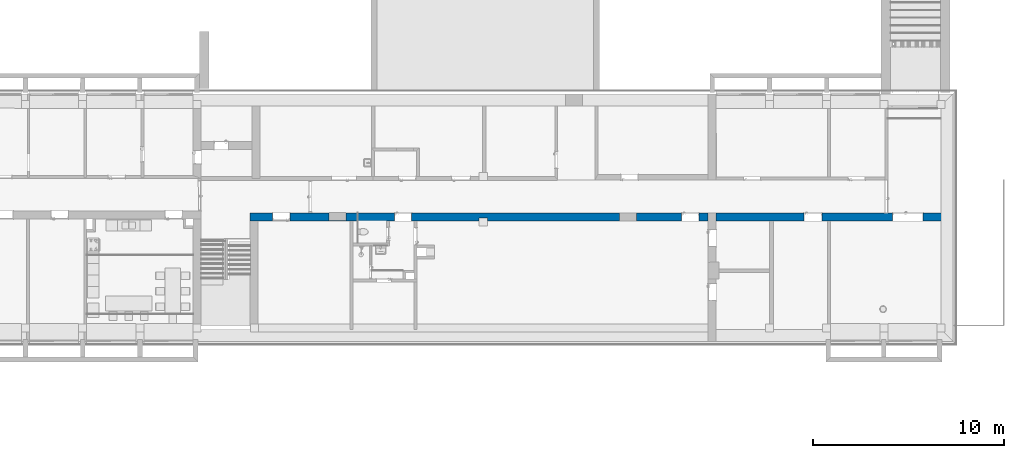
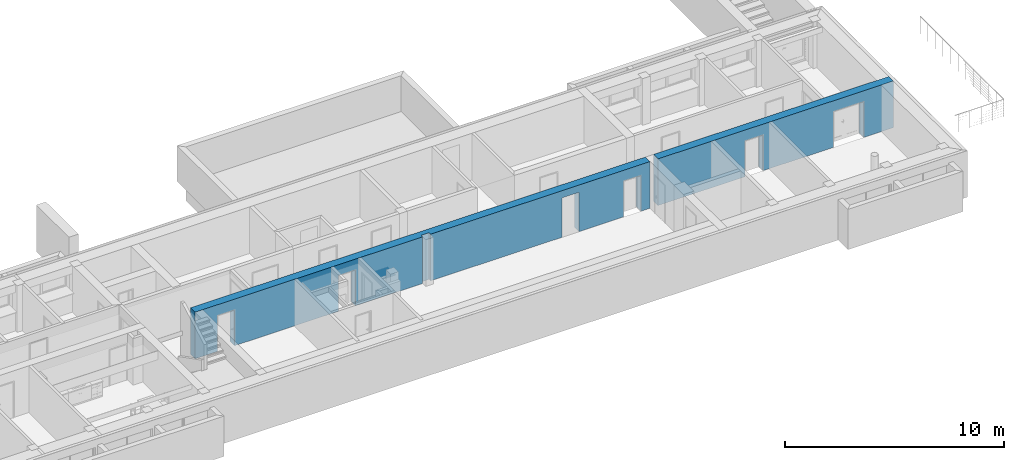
# One storey, part 35 of 127: 1 wall, 5 openings.
"""IFC2X3 building model written with IfcOpenShell, lengths in millimetres."""

from ifc_helpers import new_model, entity, si_unit, converted_unit, derived_unit, money_unit, direction, frame, origin_with_axes, origin_2d_with_axis, place, context, subcontext, project, spatial, polyline, rectangle, outline, extrude, boolean, faceted_brep, material, type_object, element, save


model = new_model("IFC2X3")

# Units and contexts
model_context = context("Model", 3, precision=1e-05, world=origin_with_axes(), true_north=direction((0.0, 1.0)))
body_context = subcontext(model_context, "Body", "Model", "MODEL_VIEW")
ifc_project = project(units=[si_unit("LENGTHUNIT", "METRE", prefix="MILLI"), si_unit("AREAUNIT", "SQUARE_METRE"), si_unit("VOLUMEUNIT", "CUBIC_METRE"), converted_unit("PLANEANGLEUNIT", "DEGREE", entity("IfcPlaneAngleMeasure", 0.0174532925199), si_unit("PLANEANGLEUNIT", "RADIAN"), dimensions=[0, 0, 0, 0, 0, 0, 0]), si_unit("SOLIDANGLEUNIT", "STERADIAN"), money_unit("EUR"), converted_unit("TIMEUNIT", "Year", entity("IfcTimeMeasure", 31556926.0), si_unit("TIMEUNIT", "SECOND"), dimensions=[0, 0, 1, 0, 0, 0, 0]), si_unit("MASSUNIT", "GRAM", prefix="KILO"), si_unit("THERMODYNAMICTEMPERATUREUNIT", "DEGREE_CELSIUS"), si_unit("LUMINOUSINTENSITYUNIT", "LUMEN"), si_unit("ENERGYUNIT", "JOULE", prefix="MEGA"), derived_unit("THERMALCONDUCTANCEUNIT", [(si_unit("POWERUNIT", "WATT"), 1), (si_unit("LENGTHUNIT", "METRE"), -1), (si_unit("THERMODYNAMICTEMPERATUREUNIT", "KELVIN"), -1)]), derived_unit("SPECIFICHEATCAPACITYUNIT", [(si_unit("ENERGYUNIT", "JOULE"), 1), (si_unit("MASSUNIT", "GRAM", prefix="KILO"), -1), (si_unit("THERMODYNAMICTEMPERATUREUNIT", "KELVIN"), -1)]), derived_unit("MASSDENSITYUNIT", [(si_unit("MASSUNIT", "GRAM", prefix="KILO"), 1), (si_unit("VOLUMEUNIT", "CUBIC_METRE"), -1)])], contexts=[model_context])

# Site, building, storey
site_placement = place(None, origin_with_axes())
site = spatial("IfcSite", under=ifc_project, at=site_placement, Name="Site", CompositionType="ELEMENT")
building_placement = place(site_placement, origin_with_axes())
building = spatial("IfcBuilding", under=site, at=building_placement, Name="Building", CompositionType="ELEMENT")
storey_placement = place(building_placement, origin_with_axes())
storey = spatial("IfcBuildingStorey", under=building, at=storey_placement, Name="1 KORRUS", CompositionType="ELEMENT", Elevation=0.0)

# Wall, openings
ifc_material = material(Name="Kivi -Ol.Olev Konstruktsioon")
wall_type = type_object("IfcWallType", Name="SW - 022", PredefinedType="NOTDEFINED")
wall_placement = place(storey_placement, frame((100568.175619, 41003.0649281, 0.0), z_axis=(0.0, 0.0, 1.0), x_axis=(-1.0, 0.0, 0.0)))
wall = element("IfcWall", 1, at=wall_placement, inside=storey, type_object=wall_type, material=ifc_material, Name="ol.olev ss 420", context=body_context, shape_type="CSG", body=[
    boolean("DIFFERENCE", boolean("DIFFERENCE", boolean("DIFFERENCE", boolean("DIFFERENCE", extrude(outline(polyline([(0.0, 0.0), (36847.6093323, 0.0), (36847.6093323, 420.0), (0.0, 420.0), (0.0, 0.0)])), origin_with_axes(), (0.0, 0.0, 1.0), 2600.0), faceted_brep([(32709.8748162, 0.0, 0.0), (32709.8748162, -1.81898940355e-09, 2200.0), (31809.8748162, -1.81898940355e-09, 2200.0), (31809.8748162, -9.09494701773e-10, 0.0), (32709.8748162, 415.567368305, 0.0), (32709.8748162, 415.567368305, 2200.0), (31809.8748162, 415.567368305, 2200.0), (31809.8748162, 415.567368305, 0.0)], [[[0, 1, 2, 3]], [[1, 0, 4, 5]], [[2, 1, 5, 6]], [[3, 2, 6, 7]], [[4, 0, 3, 7]], [[4, 7, 6, 5]]])), faceted_brep([(24830.8228346, 279.000002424, 2600.0), (24830.8228346, 420.0, 2600.0), (24410.8228346, 420.0, 2600.0), (24410.8228346, 279.000002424, 2600.0), (24830.8228346, 279.000002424, 0.0), (24830.8228346, 420.0, 0.0), (24410.8228346, 420.0, 0.0), (24410.8228346, 279.000002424, 0.0)], [[[0, 1, 2, 3]], [[1, 0, 4, 5]], [[6, 2, 1, 5]], [[3, 2, 6, 7]], [[0, 3, 7, 4]], [[7, 6, 5, 4]]])), faceted_brep([(17475.951796, -1.81898940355e-09, 0.0), (17475.951796, -1.81898940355e-09, 2200.0), (16575.951796, -1.81898940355e-09, 2200.0), (16575.951796, -1.81898940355e-09, 0.0), (17475.951796, 419.999999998, 0.0), (17475.951796, 419.999999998, 2200.0), (16575.951796, 419.999999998, 2200.0), (16575.951796, 419.999999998, 0.0)], [[[0, 1, 2, 3]], [[1, 0, 4, 5]], [[2, 1, 5, 6]], [[3, 2, 6, 7]], [[4, 0, 3, 7]], [[5, 4, 7, 6]]])), faceted_brep([(12413.4008273, 420.0, 0.0), (12413.4008273, 420.0, 2600.0), (12833.4011387, 420.0, 2600.0), (12833.4011387, 420.0, 0.0), (12413.9122559, 0.0, 2600.0), (12413.9122559, 0.0, 0.0), (12833.9125673, 0.0, 2600.0), (12833.9125673, 0.0, 0.0)], [[[0, 1, 2, 3]], [[4, 1, 0, 5]], [[1, 4, 6, 2]], [[3, 2, 6, 7]], [[5, 0, 3, 7]], [[4, 5, 7, 6]]])),
])
opening_1_placement = place(wall_placement, frame((28821.975966, 0.0, 0.0), z_axis=(0.0, 0.0, 1.0), x_axis=(1.0, 0.0, 0.0)))
element("IfcOpeningElement", 2, at=opening_1_placement, cuts=wall, Name="Siseuks * Door 22", context=body_context, shape_type="SweptSolid", body=[
    extrude(rectangle(XDim=900.0, YDim=2000.0, at=origin_2d_with_axis()), frame((0.0, 140.0, 1000.0), z_axis=(0.0, -1.0, 0.0), x_axis=(-1.0, 0.0, 0.0)), (0.0, 0.0, -1.0), 700.0),
    extrude(rectangle(XDim=900.0, YDim=2000.0, at=origin_2d_with_axis()), frame((0.0, 140.0, 1000.0), z_axis=(0.0, 1.0, 0.0), x_axis=(-1.0, 0.0, 0.0)), (0.0, 0.0, -1.0), 560.0),
    extrude(rectangle(XDim=974.0, YDim=2037.0, at=origin_2d_with_axis()), frame((0.0, 0.0, 1018.5), z_axis=(0.0, 1.0, 0.0), x_axis=(-1.0, 0.0, 0.0)), (0.0, 0.0, -1.0), 700.0),
    extrude(rectangle(XDim=974.0, YDim=2037.0, at=origin_2d_with_axis()), frame((0.0, 420.0, 1018.5), z_axis=(0.0, -1.0, 0.0), x_axis=(-1.0, 0.0, 0.0)), (0.0, 0.0, -1.0), 700.0),
])
opening_2_placement = place(wall_placement, frame((13772.07102, 0.0, 0.0), z_axis=(0.0, 0.0, 1.0), x_axis=(1.0, 0.0, 0.0)))
element("IfcOpeningElement", 3, at=opening_2_placement, cuts=wall, Name="Siseuks * Door 22", context=body_context, shape_type="SweptSolid", body=[
    extrude(rectangle(XDim=900.0, YDim=2000.0, at=origin_2d_with_axis()), frame((0.0, 140.0, 1000.0), z_axis=(0.0, -1.0, 0.0), x_axis=(-1.0, 0.0, 0.0)), (0.0, 0.0, -1.0), 700.0),
    extrude(rectangle(XDim=900.0, YDim=2000.0, at=origin_2d_with_axis()), frame((0.0, 140.0, 1000.0), z_axis=(0.0, 1.0, 0.0), x_axis=(-1.0, 0.0, 0.0)), (0.0, 0.0, -1.0), 560.0),
    extrude(rectangle(XDim=974.0, YDim=2037.0, at=origin_2d_with_axis()), frame((0.0, 0.0, 1018.5), z_axis=(0.0, 1.0, 0.0), x_axis=(-1.0, 0.0, 0.0)), (0.0, 0.0, -1.0), 700.0),
    extrude(rectangle(XDim=974.0, YDim=2037.0, at=origin_2d_with_axis()), frame((0.0, 420.0, 1018.5), z_axis=(0.0, -1.0, 0.0), x_axis=(-1.0, 0.0, 0.0)), (0.0, 0.0, -1.0), 700.0),
])
opening_3_placement = place(wall_placement, frame((7339.90911766, 0.0, 0.0), z_axis=(0.0, 0.0, 1.0), x_axis=(1.0, 0.0, 0.0)))
element("IfcOpeningElement", 4, at=opening_3_placement, cuts=wall, Name="Siseuks * Door 22", context=body_context, shape_type="SweptSolid", body=[
    extrude(rectangle(XDim=950.0, YDim=2000.0, at=origin_2d_with_axis()), frame((0.0, 140.0, 1000.0), z_axis=(0.0, -1.0, 0.0), x_axis=(-1.0, 0.0, 0.0)), (0.0, 0.0, -1.0), 700.0),
    extrude(rectangle(XDim=950.0, YDim=2000.0, at=origin_2d_with_axis()), frame((0.0, 140.0, 1000.0), z_axis=(0.0, 1.0, 0.0), x_axis=(-1.0, 0.0, 0.0)), (0.0, 0.0, -1.0), 560.0),
    extrude(rectangle(XDim=1024.0, YDim=2037.0, at=origin_2d_with_axis()), frame((0.0, 0.0, 1018.5), z_axis=(0.0, 1.0, 0.0), x_axis=(-1.0, 0.0, 0.0)), (0.0, 0.0, -1.0), 700.0),
    extrude(rectangle(XDim=1024.0, YDim=2037.0, at=origin_2d_with_axis()), frame((0.0, 420.0, 1018.5), z_axis=(0.0, -1.0, 0.0), x_axis=(-1.0, 0.0, 0.0)), (0.0, 0.0, -1.0), 700.0),
])
opening_4_placement = place(wall_placement, frame((2356.60276487, 0.0, 0.0), z_axis=(0.0, 0.0, 1.0), x_axis=(1.0, 0.0, 0.0)))
element("IfcOpeningElement", 5, at=opening_4_placement, cuts=wall, Name="Siseuks * Double Door 22", context=body_context, shape_type="SweptSolid", body=[
    extrude(rectangle(XDim=1600.0, YDim=2000.0, at=origin_2d_with_axis()), frame((0.0, 420.0, 1000.0), z_axis=(0.0, 1.0, 0.0), x_axis=(1.0, 0.0, 0.0)), (0.0, 0.0, -1.0), 1260.0),
    extrude(rectangle(XDim=1674.0, YDim=2037.0, at=origin_2d_with_axis()), frame((0.0, 420.0, 1018.5), z_axis=(0.0, 1.0, 0.0), x_axis=(1.0, 0.0, 0.0)), (0.0, 0.0, 1.0), 420.0),
    extrude(rectangle(XDim=1674.0, YDim=2037.0, at=origin_2d_with_axis()), frame((0.0, 0.0, 1018.5), z_axis=(0.0, -1.0, 0.0), x_axis=(1.0, 0.0, 0.0)), (0.0, 0.0, 1.0), 420.0),
])
opening_5_placement = place(wall_placement, frame((35210.9042965, 0.0, 0.0), z_axis=(0.0, 0.0, 1.0), x_axis=(1.0, 0.0, 0.0)))
element("IfcOpeningElement", 6, at=opening_5_placement, cuts=wall, Name="Siseuks * Door 22", context=body_context, shape_type="SweptSolid", body=[
    extrude(rectangle(XDim=900.0, YDim=2000.0, at=origin_2d_with_axis()), frame((0.0, 280.0, 1000.0), z_axis=(0.0, 1.0, 0.0), x_axis=(1.0, 0.0, 0.0)), (0.0, 0.0, -1.0), 700.0),
    extrude(rectangle(XDim=900.0, YDim=2000.0, at=origin_2d_with_axis()), frame((0.0, 280.0, 1000.0), z_axis=(0.0, -1.0, 0.0), x_axis=(1.0, 0.0, 0.0)), (0.0, 0.0, -1.0), 560.0),
    extrude(rectangle(XDim=974.0, YDim=2037.0, at=origin_2d_with_axis()), frame((0.0, 420.0, 1018.5), z_axis=(0.0, -1.0, 0.0), x_axis=(1.0, 0.0, 0.0)), (0.0, 0.0, -1.0), 700.0),
    extrude(rectangle(XDim=974.0, YDim=2037.0, at=origin_2d_with_axis()), frame((0.0, 0.0, 1018.5), z_axis=(0.0, 1.0, 0.0), x_axis=(1.0, 0.0, 0.0)), (0.0, 0.0, -1.0), 700.0),
])

save(model, "model.ifc")
